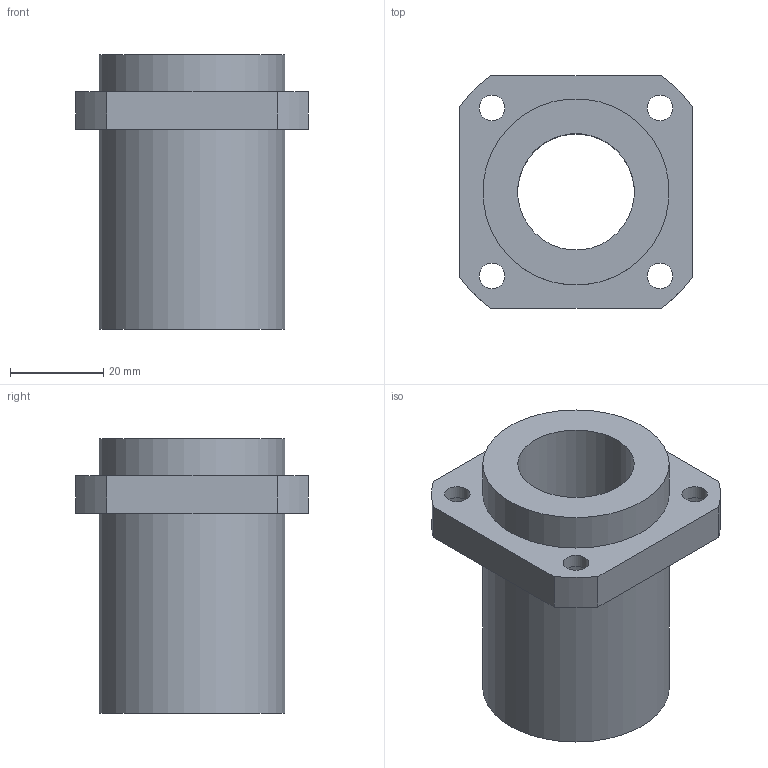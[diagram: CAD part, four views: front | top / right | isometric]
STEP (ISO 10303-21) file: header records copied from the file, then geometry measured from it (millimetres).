
FILE_DESCRIPTION(/* description */ (''),/* implementation_level */ '2;1');
FILE_NAME(/* name */ 'LMKP25UU',/* time_stamp */ '2019-07-10T08:51:47+02:00',/* author */ ('VĂ©gh MĂˇtĂ©'),/* organization */ ('Bearing Kft'),/* preprocessor_version */ 'ST-DEVELOPER v16.7',/* originating_system */ 'DEX',/* authorisation */ $);
FILE_SCHEMA (('AUTOMOTIVE_DESIGN {1 0 10303 214 3 1 1}'));
Length unit declared in the file: millimetre
Products named in the file (1): LMKP25UU
Bounding box: 50 x 50 x 59 mm (x, y, z)
Volume: 52913.4 mm3; surface area: 16977.8 mm2
Topology: 1 solids, 1 shells, 342 faces, 865 edges, 578 vertices
Faces by surface type: plane 262, bspline 63, cylinder 17
Full cylindrical faces by diameter (mm): 5.5 x4, 9 x4, 25 x1, 40 x2
Entity records: 12849 total; most frequent: CARTESIAN_POINT 5007, ORIENTED_EDGE 1698, DIRECTION 1317, EDGE_CURVE 849, LINE 689, VECTOR 689, VERTEX_POINT 574, EDGE_LOOP 417
